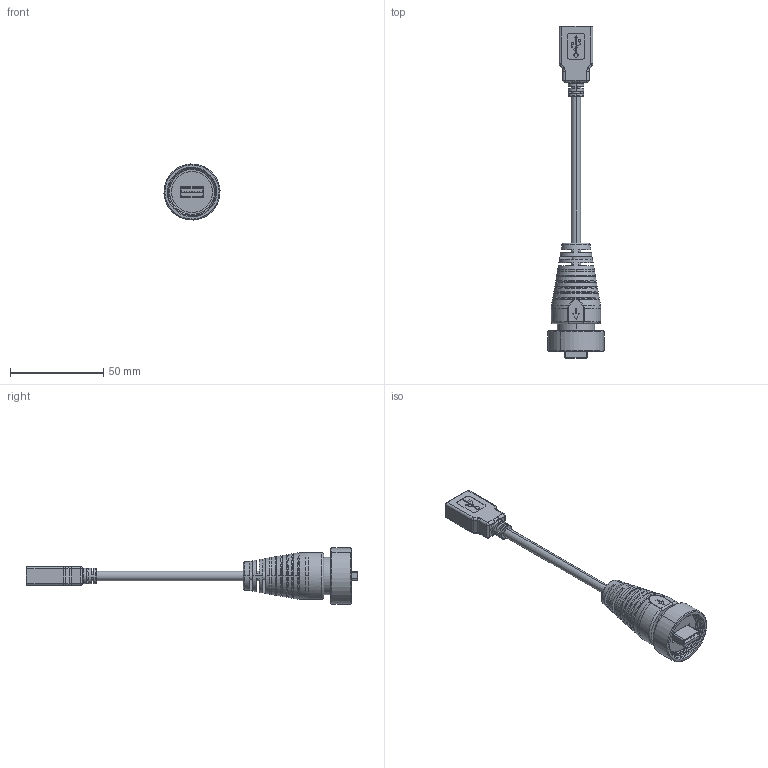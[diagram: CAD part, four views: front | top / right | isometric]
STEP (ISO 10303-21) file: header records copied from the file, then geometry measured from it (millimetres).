
FILE_DESCRIPTION (( 'STEP AP203' ), '1' );
FILE_NAME ('GT211320-06-XX.STEP', '2023-07-20T02:49:40', ( '' ), ( '' ), 'SwSTEP 2.0', 'SolidWorks 2019', '' );
FILE_SCHEMA (( 'CONFIG_CONTROL_DESIGN' ));
Length unit declared in the file: millimetre
Products named in the file (1): GT211320-06-XX
Bounding box: 29.95 x 177.55 x 29.95 mm (x, y, z)
Volume: 28403.9 mm3; surface area: 16231.6 mm2
Topology: 9 solids, 10 shells, 934 faces, 2555 edges, 1652 vertices
Faces by surface type: plane 589, cylinder 247, torus 49, bspline 29, cone 16, sphere 4
Entity records: 34816 total; most frequent: CARTESIAN_POINT 11241, ORIENTED_EDGE 5094, DIRECTION 4671, EDGE_CURVE 2547, VECTOR 1797, LINE 1797, VERTEX_POINT 1652, AXIS2_PLACEMENT_3D 1437
